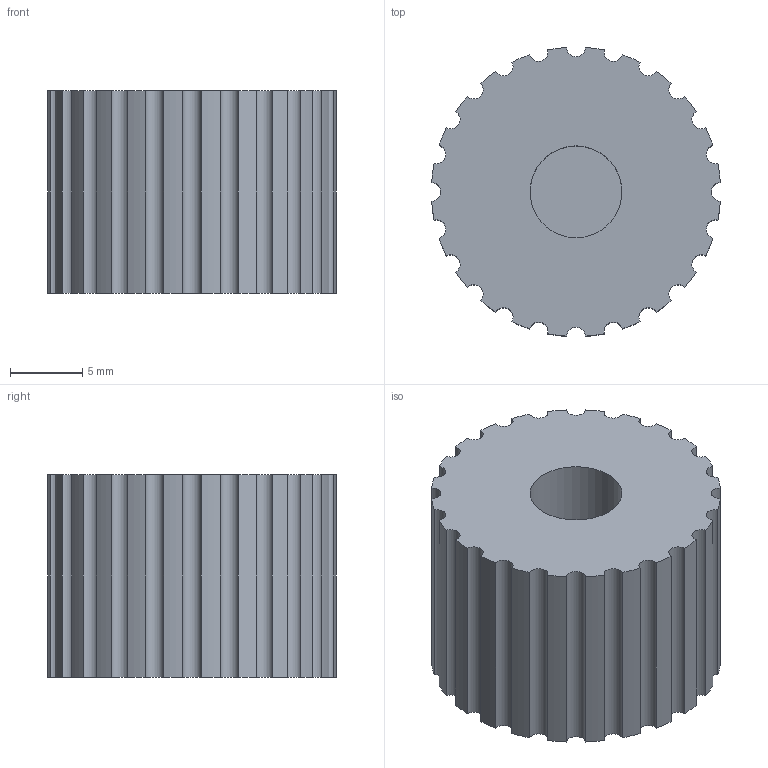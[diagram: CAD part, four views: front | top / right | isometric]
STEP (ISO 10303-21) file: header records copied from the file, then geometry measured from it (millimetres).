
FILE_DESCRIPTION(('Open CASCADE Model'),'2;1');
FILE_NAME('Open CASCADE Shape Model','2026-09-13T14:18:06',('Author'),( 'Open CASCADE'),'Open CASCADE STEP processor 7.9','Open CASCADE 7.9' ,'Unknown');
FILE_SCHEMA(('AUTOMOTIVE_DESIGN { 1 0 10303 214 1 1 1 1 }'));
Length unit declared in the file: millimetre
Products named in the file (1): Open CASCADE STEP translator 7.9 17
Bounding box: 19.96 x 19.96 x 14 mm (x, y, z)
Volume: 3826.9 mm3; surface area: 1938.2 mm2
Topology: 1 solids, 1 shells, 57 faces, 159 edges, 106 vertices
Faces by surface type: cylinder 49, plane 8
Full cylindrical faces by diameter (mm): 6.35 x1
Entity records: 3897 total; most frequent: CARTESIAN_POINT 811, DIRECTION 576, ORIENTED_EDGE 318, PCURVE 318, DEFINITIONAL_REPRESENTATION 318, CIRCLE 185, LINE 177, VECTOR 177
